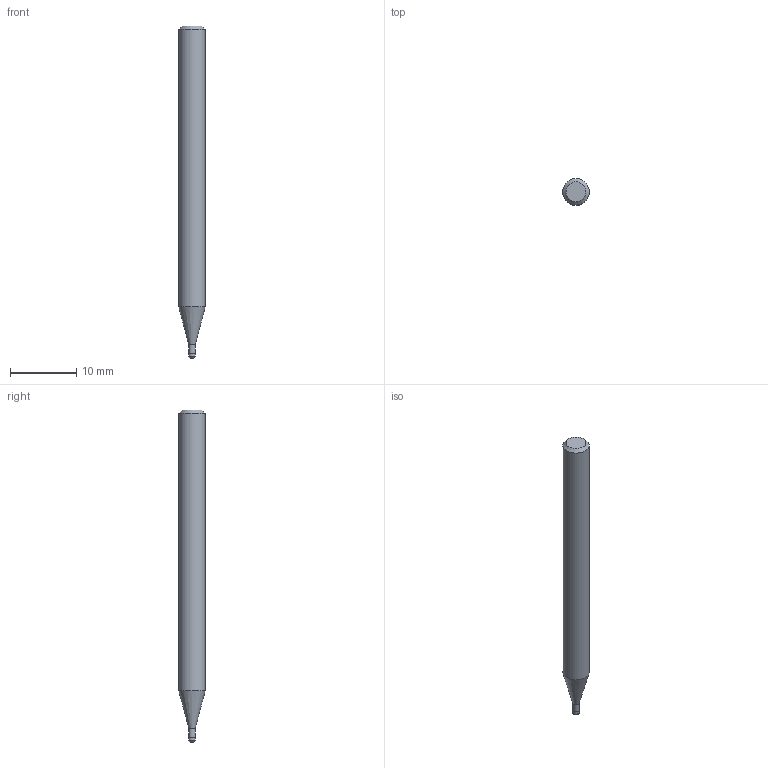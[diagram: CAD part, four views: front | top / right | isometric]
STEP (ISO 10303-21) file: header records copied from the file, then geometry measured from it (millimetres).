
FILE_DESCRIPTION((''),'2;1');
FILE_NAME('C:\Users\nsx150\AppData\Local\Temp\Mastercam 2021\LJSIDMOTM8\TEMP.step','2021-08-03T13:50:21',(''),(''),'STEP Write','Mastercam 2021 ... CNC Software, Inc.','');
FILE_SCHEMA(('AUTOMOTIVE_DESIGN'));
Length unit declared in the file: millimetre
Products named in the file (1): None
Bounding box: 4 x 4 x 50 mm (x, y, z)
Volume: 562.5 mm3; surface area: 594 mm2
Topology: 2 solids, 2 shells, 10 faces, 14 edges, 8 vertices
Faces by surface type: plane 4, cylinder 3, cone 2, torus 1
Full cylindrical faces by diameter (mm): 0.95 x1, 1 x1, 4 x1
Entity records: 232 total; most frequent: DIRECTION 40, CARTESIAN_POINT 28, AXIS2_PLACEMENT_3D 20, ORIENTED_EDGE 16, EDGE_LOOP 16, STYLED_ITEM 13, ADVANCED_FACE 10, FACE_BOUND 10
